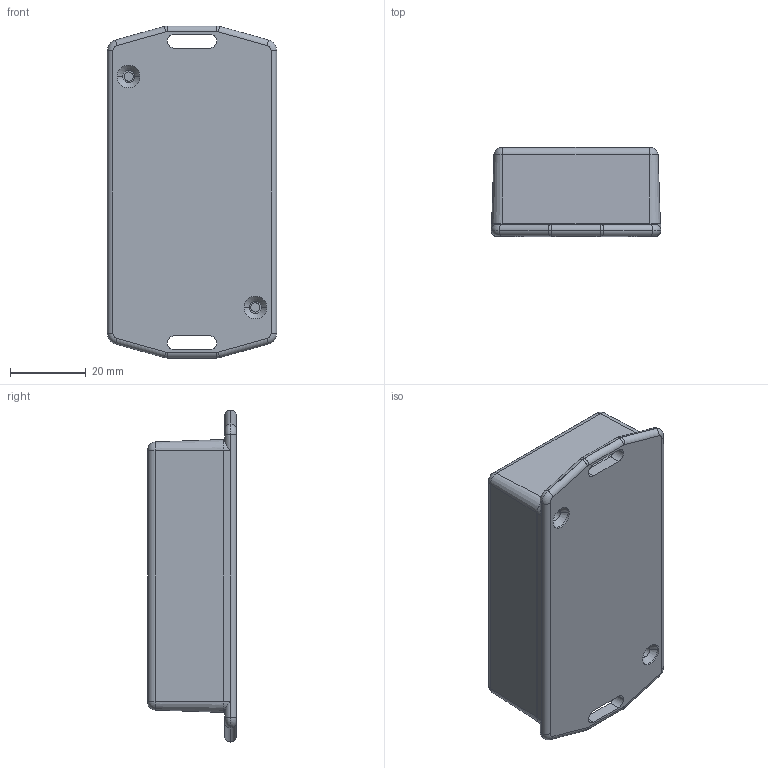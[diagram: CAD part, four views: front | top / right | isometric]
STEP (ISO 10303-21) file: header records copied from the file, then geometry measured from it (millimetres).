
FILE_DESCRIPTION (( 'STEP AP203' ), '1' );
FILE_NAME ('DM-014.STEP', '2018-02-09T12:12:38', ( '' ), ( '' ), 'SwSTEP 2.0', 'SolidWorks 2015', '' );
FILE_SCHEMA (( 'CONFIG_CONTROL_DESIGN' ));
Length unit declared in the file: millimetre
Products named in the file (3): DM-014; DM-013-P-1_kulp; HH-013-Body
Assembly tree (2 placements, depth 2):
  DM-014
    DM-013-P-1_kulp
    HH-013-Body
Bounding box: 44.8 x 23.4 x 87.7 mm (x, y, z)
Volume: 22122.7 mm3; surface area: 25290.1 mm2
Topology: 2 solids, 2 shells, 196 faces, 471 edges, 298 vertices
Faces by surface type: cylinder 81, plane 75, cone 20, torus 20
Entity records: 6098 total; most frequent: DIRECTION 1079, CARTESIAN_POINT 1034, ORIENTED_EDGE 942, EDGE_CURVE 471, AXIS2_PLACEMENT_3D 411, VERTEX_POINT 298, VECTOR 257, LINE 257
